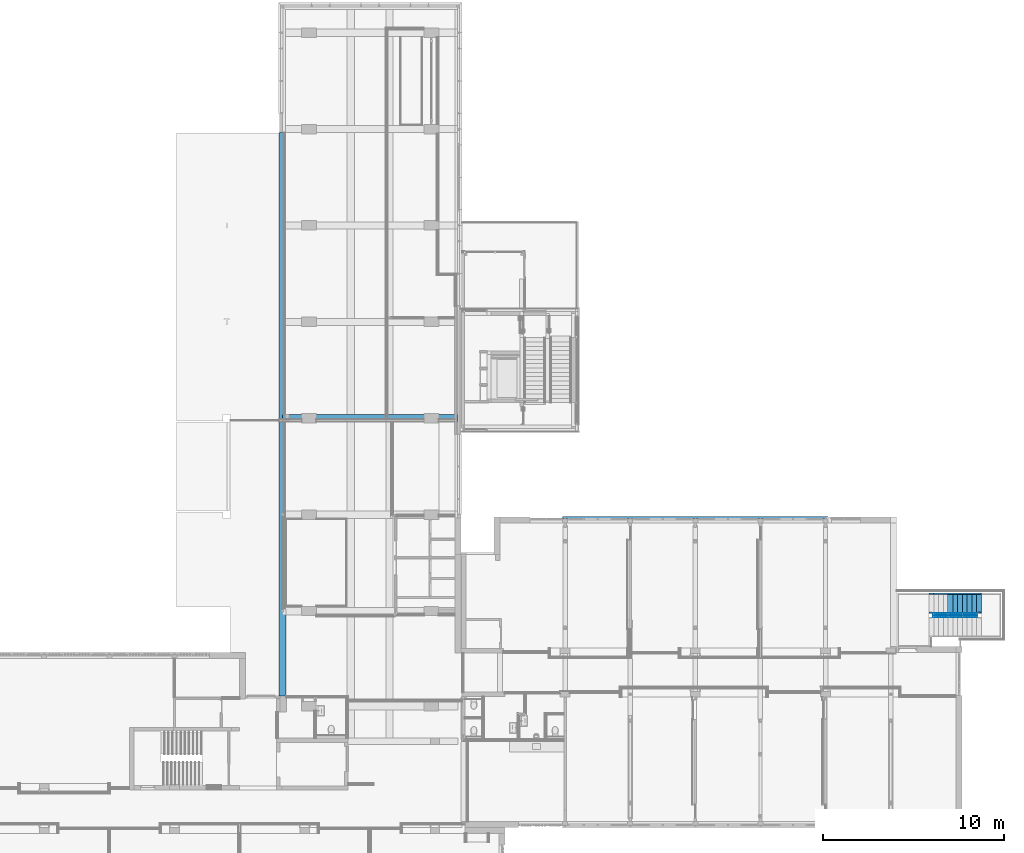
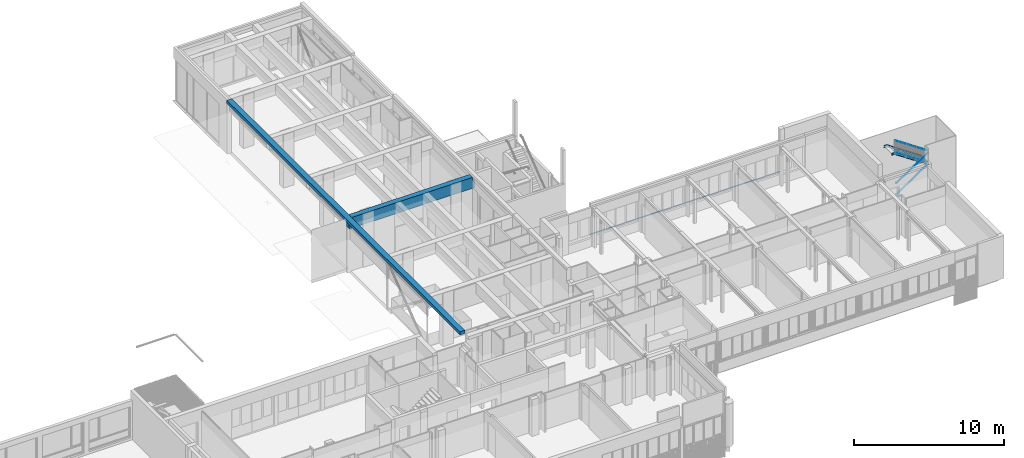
# One storey, part 24 of 117: 13 members, 3 beams, 3 elements without a shape of their own.
"""IFC2X3 building model written with IfcOpenShell, lengths in millimetres."""

from ifc_helpers import new_model, entity, si_unit, converted_unit, derived_unit, money_unit, direction, frame, origin_with_axes, place, context, subcontext, project, spatial, faceted_brep, material, type_object, element, aggregate, save


model = new_model("IFC2X3")

# Units and contexts
model_context = context("Model", 3, precision=0.01, world=origin_with_axes(), true_north=direction((0.0, 1.0)))
body_context = subcontext(model_context, "Body", "Model", "MODEL_VIEW")
ifc_project = project(units=[si_unit("LENGTHUNIT", "METRE", prefix="MILLI"), si_unit("AREAUNIT", "SQUARE_METRE"), si_unit("VOLUMEUNIT", "CUBIC_METRE"), converted_unit("PLANEANGLEUNIT", "DEGREE", entity("IfcPlaneAngleMeasure", 0.0174532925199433), si_unit("PLANEANGLEUNIT", "RADIAN"), dimensions=[0, 0, 0, 0, 0, 0, 0]), money_unit("EUR"), converted_unit("TIMEUNIT", "Year", entity("IfcTimeMeasure", 31557600.0), si_unit("TIMEUNIT", "SECOND"), dimensions=[0, 0, 1, 0, 0, 0, 0]), si_unit("MASSUNIT", "GRAM", prefix="KILO"), si_unit("THERMODYNAMICTEMPERATUREUNIT", "DEGREE_CELSIUS"), si_unit("LUMINOUSINTENSITYUNIT", "LUMEN"), si_unit("ENERGYUNIT", "JOULE", prefix="MEGA"), derived_unit("THERMALCONDUCTANCEUNIT", [(si_unit("POWERUNIT", "WATT"), 1), (si_unit("LENGTHUNIT", "METRE"), -1), (si_unit("THERMODYNAMICTEMPERATUREUNIT", "KELVIN"), -1)]), derived_unit("SPECIFICHEATCAPACITYUNIT", [(si_unit("ENERGYUNIT", "JOULE"), 1), (si_unit("MASSUNIT", "GRAM", prefix="KILO"), -1), (si_unit("THERMODYNAMICTEMPERATUREUNIT", "KELVIN"), -1)]), derived_unit("MASSDENSITYUNIT", [(si_unit("MASSUNIT", "GRAM", prefix="KILO"), 1), (si_unit("VOLUMEUNIT", "CUBIC_METRE"), -1)])], contexts=[model_context])

# Site, building, storey
site_placement = place(None, origin_with_axes())
site = spatial("IfcSite", under=ifc_project, at=site_placement, Name="Site", CompositionType="ELEMENT")
building_placement = place(site_placement, origin_with_axes())
building = spatial("IfcBuilding", under=site, at=building_placement, Name="Naam gebouw", CompositionType="ELEMENT")
storey_placement = place(building_placement, frame((0.0, 0.0, 4150.0), z_axis=(0.0, 0.0, 1.0), x_axis=(1.0, 0.0, 0.0)))
storey = spatial("IfcBuildingStorey", under=building, at=storey_placement, Name="1e verdieping N", CompositionType="ELEMENT", Elevation=4150.0)

# Railing, members
railing_type = type_object("IfcRailingType", Name="Railing Type", PredefinedType="NOTDEFINED")
railing_1_placement = place(storey_placement, frame((56130.0, 22505.9124251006, 1905.987766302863), z_axis=(0.0, 0.0, 1.0), x_axis=(1.0, 0.0, 0.0)))
railing_1 = element("IfcRailing", 1, at=railing_1_placement, inside=storey, type_object=railing_type, Name="_Reling-x", PredefinedType="NOTDEFINED")
ifc_material_1 = material(Name="Metaal - Staal C")
member_type_1 = type_object("IfcMemberType", Name="IfcMember", PredefinedType="USERDEFINED")
member_1_placement = place(railing_1_placement, frame((1443.5072305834, -24.99999999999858, 971.715728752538), z_axis=(0.0, 0.0, 1.0), x_axis=(1.0, 0.0, 0.0)))
member_1 = element("IfcMember", 2, at=member_1_placement, type_object=member_type_1, material=ifc_material_1, Name="_Bovenregel-x", context=body_context, shape_type="Brep", body=[
    faceted_brep([(-1196.492769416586, -19.99999999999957, 1635.021234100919), (-1207.641539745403, -19.99999999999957, 1618.416869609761), (1185.343999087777, -19.99999999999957, 11.67990675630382), (1196.492769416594, -19.99999999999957, 28.28427124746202), (-1196.492769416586, 19.99999999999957, 1635.021234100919), (-1207.641539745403, 19.99999999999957, 1618.416869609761), (1185.343999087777, 19.99999999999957, 11.67990675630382), (1196.492769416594, 19.99999999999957, 28.28427124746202)], [[[0, 1, 2, 3]], [[0, 4, 5, 1]], [[1, 5, 6, 2]], [[3, 2, 6, 7]], [[4, 0, 3, 7]], [[5, 4, 7, 6]]]),
])
member_2_placement = place(railing_1_placement, frame((1443.5072305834, -24.99999999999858, 47.63932022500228), z_axis=(0.0, 0.0, 1.0), x_axis=(1.0, 0.0, 0.0)))
member_2 = element("IfcMember", 3, at=member_2_placement, type_object=member_type_1, material=ifc_material_1, Name="_Regel-x", context=body_context, shape_type="Brep", body=[
    faceted_brep([(-1190.918384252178, -19.99999999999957, 1637.399824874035), (-1202.067154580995, -19.99999999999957, 1620.795460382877), (1190.918384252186, -19.99999999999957, 14.0584975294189), (1202.067154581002, -19.99999999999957, 30.66286202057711), (-1190.918384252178, 19.99999999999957, 1637.399824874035), (-1202.067154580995, 19.99999999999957, 1620.795460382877), (1190.918384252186, 19.99999999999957, 14.0584975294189), (1202.067154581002, 19.99999999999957, 30.66286202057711)], [[[0, 1, 2, 3]], [[0, 4, 5, 1]], [[1, 5, 6, 2]], [[3, 2, 6, 7]], [[4, 0, 3, 7]], [[5, 4, 7, 6]]]),
])
aggregate(railing_1, [member_1, member_2])

railing_2_placement = place(storey_placement, frame((56130.0, 22285.9124251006, 163.6876419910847), z_axis=(0.0, 0.0, 1.0), x_axis=(1.0, 0.0, 0.0)))
railing_2 = element("IfcRailing", 4, at=railing_2_placement, inside=storey, type_object=railing_type, Name="_Reling-x", PredefinedType="NOTDEFINED")
member_3_placement = place(railing_2_placement, frame((1437.32638888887, 24.99999999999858, 47.63932022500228), z_axis=(0.0, 0.0, 1.0), x_axis=(1.0, 0.0, 0.0)))
member_3 = element("IfcMember", 5, at=member_3_placement, type_object=member_type_1, material=ifc_material_1, Name="_Regel-x", context=body_context, shape_type="Brep", body=[
    faceted_brep([(-1208.228655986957, -19.99999999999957, 30.67581515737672), (-1197.118566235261, -19.99999999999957, 14.04554439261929), (1208.228655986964, -19.99999999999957, 1620.972088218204), (1197.118566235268, -19.99999999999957, 1637.602358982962), (-1208.228655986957, 19.99999999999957, 30.67581515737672), (-1197.118566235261, 19.99999999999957, 14.04554439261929), (1208.228655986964, 19.99999999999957, 1620.972088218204), (1197.118566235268, 19.99999999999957, 1637.602358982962)], [[[0, 1, 2, 3]], [[0, 4, 5, 1]], [[1, 5, 6, 2]], [[3, 2, 6, 7]], [[4, 0, 3, 7]], [[5, 4, 7, 6]]]),
])
member_4_placement = place(railing_2_placement, frame((1437.32638888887, 24.99999999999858, 971.715728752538), z_axis=(0.0, 0.0, 1.0), x_axis=(1.0, 0.0, 0.0)))
member_4 = element("IfcMember", 6, at=member_4_placement, type_object=member_type_1, material=ifc_material_1, Name="_Bovenregel-x", context=body_context, shape_type="Brep", body=[
    faceted_brep([(-1202.673611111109, -19.99999999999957, 28.28427124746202), (-1191.563521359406, -19.99999999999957, 11.6540004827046), (1213.78370086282, -19.99999999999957, 1618.580544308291), (1202.673611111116, -19.99999999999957, 1635.210815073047), (-1202.673611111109, 19.99999999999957, 28.28427124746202), (-1191.563521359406, 19.99999999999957, 11.6540004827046), (1213.78370086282, 19.99999999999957, 1618.580544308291), (1202.673611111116, 19.99999999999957, 1635.210815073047)], [[[0, 1, 2, 3]], [[0, 4, 5, 1]], [[1, 5, 6, 2]], [[3, 2, 6, 7]], [[4, 0, 3, 7]], [[5, 4, 7, 6]]]),
])
aggregate(railing_2, [member_3, member_4])

# Beam
ifc_material_2 = material(Name="Metaal - Aluminium")
beam_type_1 = type_object("IfcBeamType", Name="Lekdorpel 107 x 49", PredefinedType="BEAM")
beam_1_placement = place(storey_placement, frame((50537.49999999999, 27835.91242510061, 782.9999999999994), z_axis=(0.0, 0.0, 1.0), x_axis=(0.0, 1.0, 0.0)))
element("IfcBeam", 7, at=beam_1_placement, inside=storey, type_object=beam_type_1, material=ifc_material_2, Name="_Balk-x", ObjectType="BEAM", context=body_context, shape_type="Brep", body=[
    faceted_brep([(27.99999999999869, 0.0, -1.678199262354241), (28.00000000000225, 14674.99999999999, -1.678199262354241), (28.00000000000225, 14674.99999999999, -16.5358983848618), (27.99999999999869, 0.0, -16.5358983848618), (-77.00000000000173, 0.0, 16.83613371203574), (-76.99999999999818, 14674.99999999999, 16.83613371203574), (-76.99999999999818, 14674.99999999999, 28.51433297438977), (-74.99999999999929, 14674.99999999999, 28.51433297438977), (-74.99999999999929, 14674.99999999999, 18.51433297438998), (30.00000000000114, 14674.99999999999, 0.0), (30.00000000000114, 14674.99999999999, -19.99999999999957), (19.99999999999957, 14674.99999999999, -14.22649730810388), (19.99999999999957, 14674.99999999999, -11.91709623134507), (19.99999999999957, 0.0, -11.91709623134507), (19.99999999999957, 0.0, -14.22649730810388), (30.00000000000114, 0.0, -19.99999999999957), (30.00000000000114, 0.0, 0.0), (-74.99999999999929, 0.0, 18.51433297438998), (-74.99999999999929, 0.0, 28.51433297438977), (-77.00000000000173, 0.0, 28.51433297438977)], [[[0, 1, 2, 3]], [[4, 5, 1, 0]], [[2, 1, 5, 6, 7, 8, 9, 10, 11, 12]], [[3, 2, 12, 13]], [[4, 0, 3, 13, 14, 15, 16, 17, 18, 19]], [[19, 6, 5, 4]], [[18, 7, 6, 19]], [[17, 8, 7, 18]], [[16, 9, 8, 17]], [[15, 10, 9, 16]], [[14, 11, 10, 15]], [[13, 12, 11, 14]]]),
])

# Stair, members
stair_placement = place(storey_placement, frame((59009.99999999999, 22570.91242510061, 1562.7), z_axis=(0.0, 0.0, 1.0), x_axis=(1.0, 0.0, 0.0)))
stair = element("IfcStair", 8, at=stair_placement, inside=storey, Name="_Trap-x", ShapeType="NOTDEFINED")
member_type_2 = type_object("IfcMemberType", Name="IfcMember", PredefinedType="NOTDEFINED")
member_5_placement = place(stair_placement, origin_with_axes())
member_5 = element("IfcMember", 9, at=member_5_placement, type_object=member_type_2, material=ifc_material_1, Name="_Trapconstructie-x", context=body_context, shape_type="Brep", body=[
    faceted_brep([(20.00000000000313, 979.9999999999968, 40.00000000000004), (20.00000000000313, 979.9999999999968, 200.0000000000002), (-26.59509267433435, 979.9999999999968, 200.0000000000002), (-259.5171003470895, 979.9999999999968, 356.3922527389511), (-521.8213932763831, 979.9999999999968, 532.512833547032), (-784.1256862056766, 979.9999999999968, 708.6334143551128), (-1046.42997913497, 979.9999999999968, 884.7539951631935), (-1308.734272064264, 979.9999999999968, 1060.874575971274), (-1571.038564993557, 979.9999999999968, 1236.995156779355), (-1833.342857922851, 979.9999999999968, 1413.115737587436), (-2095.647150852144, 979.9999999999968, 1589.236318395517), (-2357.951443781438, 979.9999999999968, 1765.356899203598), (-2632.988010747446, 979.9999999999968, 1950.026388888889), (-2885.347222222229, 979.9999999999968, 1950.026388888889), (-2885.347222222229, 979.9999999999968, 1790.026388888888), (-2681.719993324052, 979.9999999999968, 1790.026388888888), (-2447.141606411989, 979.9999999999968, 1632.521983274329), (-2184.837313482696, 979.9999999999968, 1456.401402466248), (-1922.533020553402, 979.9999999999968, 1280.280821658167), (-1660.228727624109, 979.9999999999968, 1104.160240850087), (-1397.924434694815, 979.9999999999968, 928.039660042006), (-1135.620141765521, 979.9999999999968, 751.9190792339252), (-873.3158488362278, 979.9999999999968, 575.7984984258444), (-611.0115559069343, 979.9999999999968, 399.6779176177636), (-348.7072629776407, 979.9999999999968, 223.5573368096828), (-75.3270752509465, 979.9999999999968, 40.00000000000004), (20.00000000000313, 1044.999999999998, 40.00000000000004), (20.00000000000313, 1044.999999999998, 50.49999999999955), (20.00000000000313, 987.4999999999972, 50.49999999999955), (20.00000000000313, 987.4999999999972, 189.4999999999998), (20.00000000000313, 1044.999999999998, 189.4999999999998), (20.00000000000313, 1044.999999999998, 200.0000000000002), (-26.59509267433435, 1044.999999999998, 200.0000000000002), (-259.5171003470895, 1044.999999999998, 356.3922527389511), (-521.8213932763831, 1044.999999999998, 532.512833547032), (-784.1256862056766, 1044.999999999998, 708.6334143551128), (-1046.42997913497, 1044.999999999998, 884.7539951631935), (-1308.734272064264, 1044.999999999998, 1060.874575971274), (-1571.038564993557, 1044.999999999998, 1236.995156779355), (-1833.342857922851, 1044.999999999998, 1413.115737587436), (-2095.647150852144, 1044.999999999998, 1589.236318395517), (-2357.951443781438, 1044.999999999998, 1765.356899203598), (-2632.988010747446, 1044.999999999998, 1950.026388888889), (-2885.347222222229, 1044.999999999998, 1950.026388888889), (-2885.347222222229, 1044.999999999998, 1939.526388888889), (-2885.347222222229, 987.4999999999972, 1939.526388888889), (-2885.347222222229, 987.4999999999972, 1800.526388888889), (-2885.347222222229, 1044.999999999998, 1800.526388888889), (-2885.347222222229, 1044.999999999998, 1790.026388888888), (-2681.719993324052, 1044.999999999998, 1790.026388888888), (-75.3270752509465, 1044.999999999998, 40.00000000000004), (-2447.141606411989, 1044.999999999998, 1632.521983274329), (-2184.837313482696, 1044.999999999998, 1456.401402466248), (-1922.533020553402, 1044.999999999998, 1280.280821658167), (-1660.228727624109, 1044.999999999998, 1104.160240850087), (-1397.924434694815, 1044.999999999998, 928.039660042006), (-1135.620141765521, 1044.999999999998, 751.9190792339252), (-873.3158488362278, 1044.999999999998, 575.7984984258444), (-611.0115559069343, 1044.999999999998, 399.6779176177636), (-348.7072629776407, 1044.999999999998, 223.5573368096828), (-2678.521956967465, 1044.999999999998, 1800.526388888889), (-2441.288501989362, 1044.999999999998, 1641.239274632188), (-2178.984209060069, 1044.999999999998, 1465.118693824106), (-1916.679916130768, 1044.999999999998, 1288.998113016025), (-1654.375623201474, 1044.999999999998, 1112.877532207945), (-1392.071330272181, 1044.999999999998, 936.7569513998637), (-1129.767037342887, 1044.999999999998, 760.6363705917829), (-867.4627444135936, 1044.999999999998, 584.5157897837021), (-605.1584514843, 1044.999999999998, 408.3952089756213), (-342.8541585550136, 1044.999999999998, 232.2746281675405), (-72.12903889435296, 1044.999999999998, 50.49999999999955), (-72.12903889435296, 987.4999999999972, 50.49999999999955), (-342.8541585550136, 987.4999999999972, 232.2746281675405), (-605.1584514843, 987.4999999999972, 408.3952089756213), (-867.4627444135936, 987.4999999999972, 584.5157897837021), (-1129.767037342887, 987.4999999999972, 760.6363705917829), (-1392.071330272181, 987.4999999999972, 936.7569513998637), (-1654.375623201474, 987.4999999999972, 1112.877532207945), (-1916.679916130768, 987.4999999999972, 1288.998113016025), (-2178.984209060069, 987.4999999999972, 1465.118693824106), (-2441.288501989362, 987.4999999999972, 1641.239274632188), (-2678.521956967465, 987.4999999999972, 1800.526388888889), (-2636.186047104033, 987.4999999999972, 1939.526388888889), (-2363.804548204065, 987.4999999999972, 1756.63960784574), (-2101.500255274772, 987.4999999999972, 1580.519027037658), (-1839.195962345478, 987.4999999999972, 1404.398446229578), (-1576.891669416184, 987.4999999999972, 1228.277865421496), (-1314.587376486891, 987.4999999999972, 1052.157284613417), (-1052.283083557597, 987.4999999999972, 876.0367038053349), (-789.9787906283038, 987.4999999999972, 699.916122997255), (-527.6744976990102, 987.4999999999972, 523.7955421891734), (-265.3702047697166, 987.4999999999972, 347.6749613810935), (-29.7931290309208, 987.4999999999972, 189.4999999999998), (-29.7931290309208, 1044.999999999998, 189.4999999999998), (-265.3702047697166, 1044.999999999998, 347.6749613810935), (-527.6744976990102, 1044.999999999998, 523.7955421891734), (-789.9787906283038, 1044.999999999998, 699.916122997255), (-1052.283083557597, 1044.999999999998, 876.0367038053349), (-1314.587376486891, 1044.999999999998, 1052.157284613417), (-1576.891669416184, 1044.999999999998, 1228.277865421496), (-1839.195962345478, 1044.999999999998, 1404.398446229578), (-2101.500255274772, 1044.999999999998, 1580.519027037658), (-2363.804548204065, 1044.999999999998, 1756.63960784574), (-2636.186047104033, 1044.999999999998, 1939.526388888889)], [[[0, 1, 2, 3, 4, 5, 6, 7, 8, 9, 10, 11, 12, 13, 14, 15, 16, 17, 18, 19, 20, 21, 22, 23, 24, 25]], [[0, 26, 27, 28, 29, 30, 31, 1]], [[1, 31, 32, 2]], [[2, 32, 33, 34, 35, 36, 37, 38, 39, 40, 41, 42, 12, 11, 10, 9, 8, 7, 6, 5, 4, 3]], [[12, 42, 43, 13]], [[14, 13, 43, 44, 45, 46, 47, 48]], [[49, 15, 14, 48]], [[50, 25, 24, 23, 22, 21, 20, 19, 18, 17, 16, 15, 49, 51, 52, 53, 54, 55, 56, 57, 58, 59]], [[26, 0, 25, 50]], [[27, 26, 50, 59, 58, 57, 56, 55, 54, 53, 52, 51, 49, 48, 47, 60, 61, 62, 63, 64, 65, 66, 67, 68, 69, 70]], [[28, 27, 70, 71]], [[29, 28, 71, 72, 73, 74, 75, 76, 77, 78, 79, 80, 81, 46, 45, 82, 83, 84, 85, 86, 87, 88, 89, 90, 91, 92]], [[30, 29, 92, 93]], [[31, 30, 93, 94, 95, 96, 97, 98, 99, 100, 101, 102, 103, 44, 43, 42, 41, 40, 39, 38, 37, 36, 35, 34, 33, 32]], [[103, 82, 45, 44]], [[81, 60, 47, 46]], [[71, 70, 69, 68, 67, 66, 65, 64, 63, 62, 61, 60, 81, 80, 79, 78, 77, 76, 75, 74, 73, 72]], [[93, 92, 91, 90, 89, 88, 87, 86, 85, 84, 83, 82, 103, 102, 101, 100, 99, 98, 97, 96, 95, 94]]]),
])
member_6_placement = place(stair_placement, origin_with_axes())
member_6 = element("IfcMember", 10, at=member_6_placement, type_object=member_type_2, material=ifc_material_1, Name="_Trapconstructie-x", context=body_context, shape_type="Brep", body=[
    faceted_brep([(20.00000000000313, 0.0, 40.00000000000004), (20.00000000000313, -65.00000000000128, 40.00000000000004), (-75.3270752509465, -65.00000000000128, 40.00000000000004), (-75.3270752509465, 0.0, 40.00000000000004), (20.00000000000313, 0.0, 200.0000000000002), (20.00000000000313, -65.00000000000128, 200.0000000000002), (20.00000000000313, -65.00000000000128, 189.4999999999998), (20.00000000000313, -7.500000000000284, 189.4999999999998), (20.00000000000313, -7.500000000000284, 50.49999999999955), (20.00000000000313, -65.00000000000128, 50.49999999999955), (-72.12903889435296, -65.00000000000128, 50.49999999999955), (-342.8541585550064, -65.00000000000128, 232.2746281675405), (-605.1584514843, -65.00000000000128, 408.3952089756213), (-867.4627444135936, -65.00000000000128, 584.5157897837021), (-1129.767037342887, -65.00000000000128, 760.6363705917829), (-1392.071330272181, -65.00000000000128, 936.7569513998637), (-1654.375623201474, -65.00000000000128, 1112.877532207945), (-1916.679916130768, -65.00000000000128, 1288.998113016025), (-2178.984209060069, -65.00000000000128, 1465.118693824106), (-2441.288501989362, -65.00000000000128, 1641.239274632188), (-2678.521956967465, -65.00000000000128, 1800.526388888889), (-2885.347222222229, -65.00000000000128, 1800.526388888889), (-2885.347222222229, -65.00000000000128, 1790.026388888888), (-2681.719993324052, -65.00000000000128, 1790.026388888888), (-2447.141606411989, -65.00000000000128, 1632.521983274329), (-2184.837313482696, -65.00000000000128, 1456.401402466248), (-1922.533020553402, -65.00000000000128, 1280.280821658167), (-1660.228727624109, -65.00000000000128, 1104.160240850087), (-1397.924434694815, -65.00000000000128, 928.039660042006), (-1135.620141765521, -65.00000000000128, 751.9190792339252), (-873.3158488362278, -65.00000000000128, 575.7984984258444), (-611.0115559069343, -65.00000000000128, 399.6779176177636), (-348.7072629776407, -65.00000000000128, 223.5573368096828), (-2681.719993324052, 0.0, 1790.026388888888), (-2447.141606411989, 0.0, 1632.521983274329), (-2184.837313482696, 0.0, 1456.401402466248), (-1922.533020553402, 0.0, 1280.280821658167), (-1660.228727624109, 0.0, 1104.160240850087), (-1397.924434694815, 0.0, 928.039660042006), (-1135.620141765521, 0.0, 751.9190792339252), (-873.3158488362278, 0.0, 575.7984984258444), (-611.0115559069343, 0.0, 399.6779176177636), (-348.7072629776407, 0.0, 223.5573368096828), (-2885.347222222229, 0.0, 1790.026388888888), (-2885.347222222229, 0.0, 1950.026388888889), (-2632.988010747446, 0.0, 1950.026388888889), (-2357.951443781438, 0.0, 1765.356899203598), (-2095.647150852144, 0.0, 1589.236318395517), (-1833.342857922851, 0.0, 1413.115737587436), (-1571.038564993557, 0.0, 1236.995156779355), (-1308.734272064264, 0.0, 1060.874575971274), (-1046.42997913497, 0.0, 884.7539951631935), (-784.1256862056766, 0.0, 708.6334143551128), (-521.8213932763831, 0.0, 532.512833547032), (-259.5171003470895, 0.0, 356.3922527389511), (-26.59509267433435, 0.0, 200.0000000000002), (-26.59509267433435, -65.00000000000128, 200.0000000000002), (-259.5171003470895, -65.00000000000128, 356.3922527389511), (-521.8213932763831, -65.00000000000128, 532.512833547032), (-784.1256862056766, -65.00000000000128, 708.6334143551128), (-1046.42997913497, -65.00000000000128, 884.7539951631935), (-1308.734272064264, -65.00000000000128, 1060.874575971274), (-1571.038564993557, -65.00000000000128, 1236.995156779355), (-1833.342857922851, -65.00000000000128, 1413.115737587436), (-2095.647150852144, -65.00000000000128, 1589.236318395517), (-2357.951443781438, -65.00000000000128, 1765.356899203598), (-2632.988010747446, -65.00000000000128, 1950.026388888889), (-2885.347222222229, -65.00000000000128, 1950.026388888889), (-2885.347222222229, -65.00000000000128, 1939.526388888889), (-2636.186047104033, -65.00000000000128, 1939.526388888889), (-2363.804548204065, -65.00000000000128, 1756.63960784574), (-2101.500255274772, -65.00000000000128, 1580.519027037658), (-1839.195962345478, -65.00000000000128, 1404.398446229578), (-1576.891669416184, -65.00000000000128, 1228.277865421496), (-1314.587376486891, -65.00000000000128, 1052.157284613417), (-1052.283083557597, -65.00000000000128, 876.0367038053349), (-789.9787906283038, -65.00000000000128, 699.916122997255), (-527.6744976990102, -65.00000000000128, 523.7955421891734), (-265.3702047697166, -65.00000000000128, 347.6749613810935), (-29.7931290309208, -65.00000000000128, 189.4999999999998), (-29.7931290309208, -7.500000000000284, 189.4999999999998), (-265.3702047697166, -7.500000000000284, 347.6749613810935), (-527.6744976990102, -7.500000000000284, 523.7955421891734), (-789.9787906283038, -7.500000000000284, 699.916122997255), (-1052.283083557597, -7.500000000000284, 876.0367038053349), (-1314.587376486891, -7.500000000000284, 1052.157284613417), (-1576.891669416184, -7.500000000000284, 1228.277865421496), (-1839.195962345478, -7.500000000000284, 1404.398446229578), (-2101.500255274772, -7.500000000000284, 1580.519027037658), (-2363.804548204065, -7.500000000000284, 1756.63960784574), (-2636.186047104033, -7.500000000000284, 1939.526388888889), (-2885.347222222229, -7.500000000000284, 1939.526388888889), (-2885.347222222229, -7.500000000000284, 1800.526388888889), (-2678.521956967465, -7.500000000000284, 1800.526388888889), (-2441.288501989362, -7.500000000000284, 1641.239274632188), (-2178.984209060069, -7.500000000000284, 1465.118693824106), (-1916.679916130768, -7.500000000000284, 1288.998113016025), (-1654.375623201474, -7.500000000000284, 1112.877532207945), (-1392.071330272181, -7.500000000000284, 936.7569513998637), (-1129.767037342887, -7.500000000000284, 760.6363705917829), (-867.4627444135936, -7.500000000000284, 584.5157897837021), (-605.1584514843, -7.500000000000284, 408.3952089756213), (-342.8541585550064, -7.500000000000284, 232.2746281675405), (-72.12903889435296, -7.500000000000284, 50.49999999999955)], [[[0, 1, 2, 3]], [[0, 4, 5, 6, 7, 8, 9, 1]], [[1, 9, 10, 11, 12, 13, 14, 15, 16, 17, 18, 19, 20, 21, 22, 23, 24, 25, 26, 27, 28, 29, 30, 31, 32, 2]], [[3, 2, 32, 31, 30, 29, 28, 27, 26, 25, 24, 23, 33, 34, 35, 36, 37, 38, 39, 40, 41, 42]], [[4, 0, 3, 42, 41, 40, 39, 38, 37, 36, 35, 34, 33, 43, 44, 45, 46, 47, 48, 49, 50, 51, 52, 53, 54, 55]], [[5, 4, 55, 56]], [[6, 5, 56, 57, 58, 59, 60, 61, 62, 63, 64, 65, 66, 67, 68, 69, 70, 71, 72, 73, 74, 75, 76, 77, 78, 79]], [[7, 6, 79, 80]], [[8, 7, 80, 81, 82, 83, 84, 85, 86, 87, 88, 89, 90, 91, 92, 93, 94, 95, 96, 97, 98, 99, 100, 101, 102, 103]], [[9, 8, 103, 10]], [[10, 103, 102, 101, 100, 99, 98, 97, 96, 95, 94, 93, 20, 19, 18, 17, 16, 15, 14, 13, 12, 11]], [[20, 93, 92, 21]], [[43, 22, 21, 92, 91, 68, 67, 44]], [[33, 23, 22, 43]], [[66, 45, 44, 67]], [[56, 55, 54, 53, 52, 51, 50, 49, 48, 47, 46, 45, 66, 65, 64, 63, 62, 61, 60, 59, 58, 57]], [[90, 69, 68, 91]], [[80, 79, 78, 77, 76, 75, 74, 73, 72, 71, 70, 69, 90, 89, 88, 87, 86, 85, 84, 83, 82, 81]]]),
])
member_type_3 = type_object("IfcMemberType", Name="IfcMember", PredefinedType="USERDEFINED")
member_7_placement = place(stair_placement, frame((0.0, 489.9999999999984, 176.1205808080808), z_axis=(0.0, 0.0, 1.0), x_axis=(0.0, 1.0, 0.0)))
member_7 = element("IfcMember", 11, at=member_7_placement, type_object=member_type_3, material=ifc_material_1, Name="_Traptrede-x", context=body_context, shape_type="Brep", body=[
    faceted_brep([(-490.0, 0.0, -38.0), (490.0, 0.0, -38.0), (490.0, 0.0, 0.0), (-490.0, 0.0, 0.0), (-490.0, 302.304292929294, -38.0), (490.0, 302.3042929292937, -38.0), (490.0, 302.3042929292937, 0.0), (-490.0, 302.304292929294, 0.0)], [[[0, 1, 2, 3]], [[0, 4, 5, 1]], [[1, 5, 6, 2]], [[3, 2, 6, 7]], [[4, 0, 3, 7]], [[5, 4, 7, 6]]]),
])
member_8_placement = place(stair_placement, frame((-262.3042929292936, 489.9999999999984, 352.2411616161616), z_axis=(0.0, 0.0, 1.0), x_axis=(0.0, 1.0, 0.0)))
member_8 = element("IfcMember", 12, at=member_8_placement, type_object=member_type_3, material=ifc_material_1, Name="_Traptrede-x", context=body_context, shape_type="Brep", body=[
    faceted_brep([(-490.0, 0.0, -38.0), (490.0, 0.0, -38.0), (490.0, 0.0, 0.0), (-490.0, 0.0, 0.0), (-490.0, 302.304292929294, -38.0), (490.0, 302.3042929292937, -38.0), (490.0, 302.3042929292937, 0.0), (-490.0, 302.304292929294, 0.0)], [[[0, 1, 2, 3]], [[0, 4, 5, 1]], [[1, 5, 6, 2]], [[3, 2, 6, 7]], [[4, 0, 3, 7]], [[5, 4, 7, 6]]]),
])
member_9_placement = place(stair_placement, frame((-524.6085858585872, 489.9999999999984, 528.3617424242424), z_axis=(0.0, 0.0, 1.0), x_axis=(0.0, 1.0, 0.0)))
member_9 = element("IfcMember", 13, at=member_9_placement, type_object=member_type_3, material=ifc_material_1, Name="_Traptrede-x", context=body_context, shape_type="Brep", body=[
    faceted_brep([(-490.0, 0.0, -38.0), (490.0, 0.0, -38.0), (490.0, 0.0, 0.0), (-490.0, 0.0, 0.0), (-490.0, 302.304292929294, -38.0), (490.0, 302.3042929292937, -38.0), (490.0, 302.3042929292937, 0.0), (-490.0, 302.304292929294, 0.0)], [[[0, 1, 2, 3]], [[0, 4, 5, 1]], [[1, 5, 6, 2]], [[3, 2, 6, 7]], [[4, 0, 3, 7]], [[5, 4, 7, 6]]]),
])
member_10_placement = place(stair_placement, frame((-786.9128787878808, 489.9999999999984, 704.4823232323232), z_axis=(0.0, 0.0, 1.0), x_axis=(0.0, 1.0, 0.0)))
member_10 = element("IfcMember", 14, at=member_10_placement, type_object=member_type_3, material=ifc_material_1, Name="_Traptrede-x", context=body_context, shape_type="Brep", body=[
    faceted_brep([(-490.0, 0.0, -38.0), (490.0, 0.0, -38.0), (490.0, 0.0, 0.0), (-490.0, 0.0, 0.0), (-490.0, 302.304292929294, -38.0), (490.0, 302.3042929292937, -38.0), (490.0, 302.3042929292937, 0.0), (-490.0, 302.304292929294, 0.0)], [[[0, 1, 2, 3]], [[0, 4, 5, 1]], [[1, 5, 6, 2]], [[3, 2, 6, 7]], [[4, 0, 3, 7]], [[5, 4, 7, 6]]]),
])
member_11_placement = place(stair_placement, frame((-1311.521464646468, 489.9999999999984, 1056.723484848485), z_axis=(0.0, 0.0, 1.0), x_axis=(0.0, 1.0, 0.0)))
member_11 = element("IfcMember", 15, at=member_11_placement, type_object=member_type_3, material=ifc_material_1, Name="_Traptrede-x", context=body_context, shape_type="Brep", body=[
    faceted_brep([(-490.0, 0.0, -38.0), (490.0, 0.0, -38.0), (490.0, 0.0, 0.0), (-490.0, 0.0, 0.0), (-490.0, 302.304292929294, -38.0), (490.0, 302.3042929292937, -38.0), (490.0, 302.3042929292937, 0.0), (-490.0, 302.304292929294, 0.0)], [[[0, 1, 2, 3]], [[0, 4, 5, 1]], [[1, 5, 6, 2]], [[3, 2, 6, 7]], [[4, 0, 3, 7]], [[5, 4, 7, 6]]]),
])
member_12_placement = place(stair_placement, frame((-1049.217171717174, 489.9999999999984, 880.6029040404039), z_axis=(0.0, 0.0, 1.0), x_axis=(0.0, 1.0, 0.0)))
member_12 = element("IfcMember", 16, at=member_12_placement, type_object=member_type_3, material=ifc_material_1, Name="_Traptrede-x", context=body_context, shape_type="Brep", body=[
    faceted_brep([(-490.0, 0.0, -38.0), (490.0, 0.0, -38.0), (490.0, 0.0, 0.0), (-490.0, 0.0, 0.0), (-490.0, 302.304292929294, -38.0), (490.0, 302.3042929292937, -38.0), (490.0, 302.3042929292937, 0.0), (-490.0, 302.304292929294, 0.0)], [[[0, 1, 2, 3]], [[0, 4, 5, 1]], [[1, 5, 6, 2]], [[3, 2, 6, 7]], [[4, 0, 3, 7]], [[5, 4, 7, 6]]]),
])
member_13_placement = place(stair_placement, frame((-1573.825757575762, 489.9999999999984, 1232.844065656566), z_axis=(0.0, 0.0, 1.0), x_axis=(0.0, 1.0, 0.0)))
member_13 = element("IfcMember", 17, at=member_13_placement, type_object=member_type_3, material=ifc_material_1, Name="_Traptrede-x", context=body_context, shape_type="Brep", body=[
    faceted_brep([(-490.0, 0.0, -38.0), (490.0, 0.0, -38.0), (490.0, 0.0, 0.0), (-490.0, 0.0, 0.0), (-490.0, 302.304292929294, -38.0), (490.0, 302.3042929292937, -38.0), (490.0, 302.3042929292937, 0.0), (-490.0, 302.304292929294, 0.0)], [[[0, 1, 2, 3]], [[0, 4, 5, 1]], [[1, 5, 6, 2]], [[3, 2, 6, 7]], [[4, 0, 3, 7]], [[5, 4, 7, 6]]]),
])
aggregate(stair, [member_5, member_6, member_7, member_8, member_9, member_10, member_11, member_12, member_13])

# Beams
ifc_material_3 = material(Name="ALG - CONSTRUCTIEF KOLOM")
beam_type_2 = type_object("IfcBeamType", Name="ALG - CONSTRUCTIEF KOLOM 400 x 250", PredefinedType="BEAM")
beam_2_placement = place(storey_placement, frame((20370.99999999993, 49075.91242510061, 4340.0), z_axis=(0.0, 0.0, 1.0), x_axis=(-1.0, 0.0, 0.0)))
element("IfcBeam", 18, at=beam_2_placement, inside=storey, type_object=beam_type_2, material=ifc_material_3, Name="_Balk-x", ObjectType="BEAM", context=body_context, shape_type="Brep", body=[
    faceted_brep([(-199.9999999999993, 0.0, 0.0), (199.9999999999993, 0.0, 0.0), (199.9999999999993, 31151.16119858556, 0.0), (-199.9999999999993, 31151.16119858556, 0.0), (-199.9999999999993, 0.0, -250.0000000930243), (199.9999999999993, 0.0, -250.0000000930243), (199.9999999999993, 31151.16119858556, -250.0000000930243), (-199.9999999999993, 31151.16119858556, -250.0000000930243)], [[[0, 1, 2, 3]], [[4, 5, 1, 0]], [[1, 5, 6, 2]], [[7, 3, 2, 6]], [[4, 0, 3, 7]], [[5, 4, 7, 6]]]),
])
beam_type_3 = type_object("IfcBeamType", Name="ALG - CONSTRUCTIEF KOLOM 400 x 890", PredefinedType="BEAM")
beam_3_placement = place(storey_placement, frame((20386.0, 33285.91242510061, 4340.0), z_axis=(0.0, 0.0, 1.0), x_axis=(0.0, -1.0, 0.0)))
element("IfcBeam", 19, at=beam_3_placement, inside=storey, type_object=beam_type_3, material=ifc_material_3, Name="_Balk-x", ObjectType="BEAM", context=body_context, shape_type="Brep", body=[
    faceted_brep([(-200.0000000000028, 184.9999999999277, -250.0000000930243), (-200.0000000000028, 184.9999999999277, 0.0), (-200.0000000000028, 9519.999999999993, 0.0), (-200.0000000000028, 9519.999999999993, -250.0000000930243), (-200.0000000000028, 9669.99999999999, -250.0000000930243), (-200.0000000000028, 9669.999999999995, -890.000000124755), (-200.0000000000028, 0.0, -890.000000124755), (-200.0000000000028, 0.0, -250.0000000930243), (200.0000000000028, 184.9999999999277, -250.0000000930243), (200.0000000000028, 184.9999999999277, 0.0), (200.0000000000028, 9519.999999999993, 0.0), (200.0000000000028, 9519.999999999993, -250.0000000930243), (200.0000000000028, 9669.99999999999, -250.0000000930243), (200.0000000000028, 9669.999999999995, -890.000000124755), (200.0000000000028, 0.0, -890.000000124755), (200.0000000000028, 0.0, -250.0000000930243)], [[[0, 1, 2, 3, 4, 5, 6, 7]], [[1, 0, 8, 9]], [[1, 9, 10, 2]], [[10, 11, 3, 2]], [[3, 11, 12, 4]], [[13, 5, 4, 12]], [[5, 13, 14, 6]], [[7, 6, 14, 15]], [[7, 15, 8, 0]], [[13, 12, 11, 10, 9, 8, 15, 14]]]),
])

save(model, "model.ifc")
